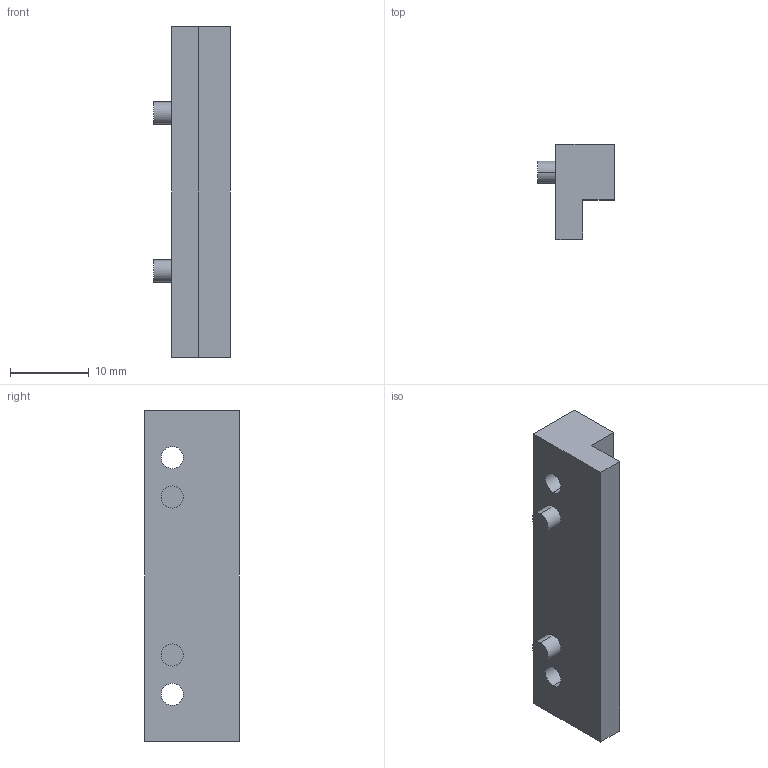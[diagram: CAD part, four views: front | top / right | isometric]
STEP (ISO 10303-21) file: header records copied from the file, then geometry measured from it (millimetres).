
FILE_DESCRIPTION (( 'STEP AP203' ), '1' );
FILE_NAME ('綴裔隅弇脣种.STEP', '2026-07-08T11:39:33', ( '' ), ( '' ), 'SwSTEP 2.0', 'SolidWorks 2024', '' );
FILE_SCHEMA (( 'CONFIG_CONTROL_DESIGN' ));
Length unit declared in the file: millimetre
Products named in the file (1): 后盖定位插销
Bounding box: 9.7 x 12 x 41.8 mm (x, y, z)
Volume: 2813 mm3; surface area: 1905.5 mm2
Topology: 1 solids, 1 shells, 18 faces, 42 edges, 28 vertices
Faces by surface type: plane 10, cylinder 8
Entity records: 607 total; most frequent: DIRECTION 96, CARTESIAN_POINT 89, ORIENTED_EDGE 84, EDGE_CURVE 42, AXIS2_PLACEMENT_3D 35, VERTEX_POINT 28, VECTOR 26, LINE 26
